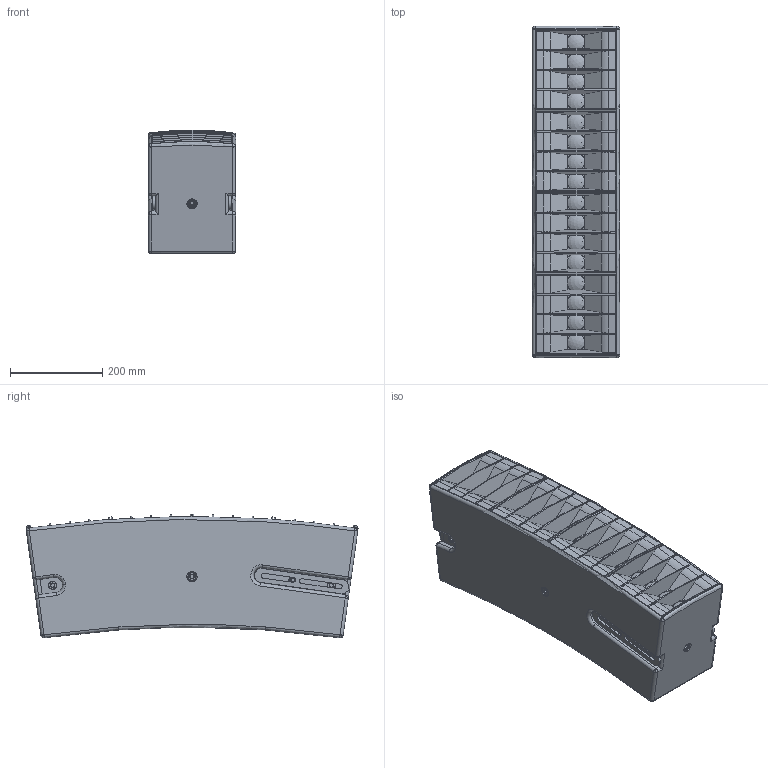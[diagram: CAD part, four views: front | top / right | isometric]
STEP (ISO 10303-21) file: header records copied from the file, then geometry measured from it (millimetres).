
FILE_DESCRIPTION (( 'STEP AP203' ), '1' );
FILE_NAME ('Seeburg_GL16c.STEP', '2012-10-15T13:31:48', ( 'Fabian' ), ( '' ), 'SwSTEP 2.0', 'SolidWorks 2009', '' );
FILE_SCHEMA (( 'CONFIG_CONTROL_DESIGN' ));
Length unit declared in the file: millimetre
Products named in the file (2): GL16c; Seeburg_GL16c
Assembly tree (1 placements, depth 2):
  Seeburg_GL16c
    GL16c
Bounding box: 189 x 718.36 x 267.45 mm (x, y, z)
Volume: 10038222.2 mm3; surface area: 1737159.5 mm2
Topology: 50 solids, 50 shells, 1048 faces, 2669 edges, 1709 vertices
Faces by surface type: plane 487, cylinder 418, cone 84, sphere 43, torus 16
Entity records: 38254 total; most frequent: CARTESIAN_POINT 13127, ORIENTED_EDGE 5260, DIRECTION 5086, EDGE_CURVE 2630, AXIS2_PLACEMENT_3D 1793, VERTEX_POINT 1683, LINE 1500, VECTOR 1500
